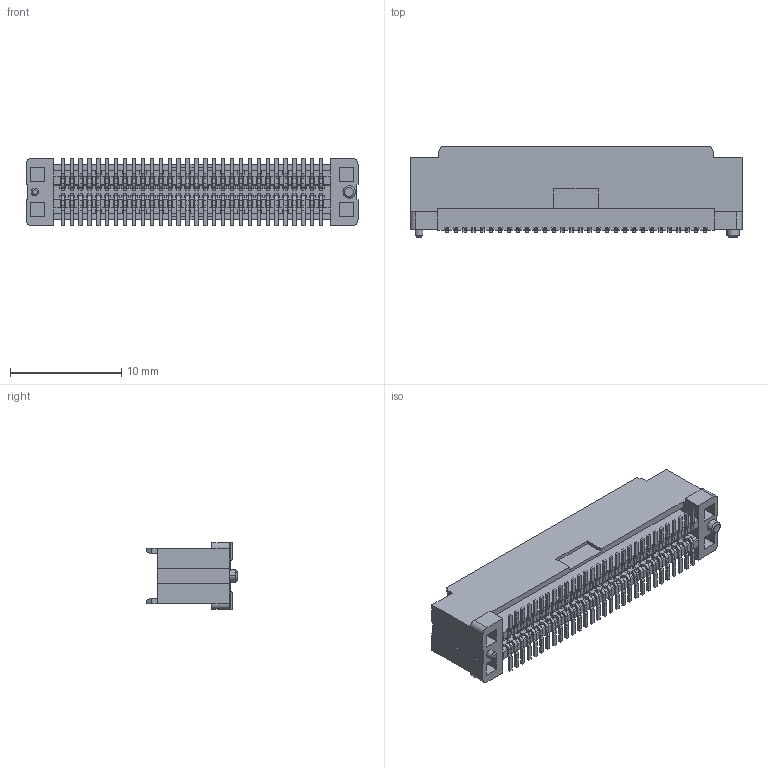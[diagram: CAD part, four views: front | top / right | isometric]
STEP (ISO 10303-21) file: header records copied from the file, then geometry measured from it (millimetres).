
FILE_DESCRIPTION (( 'STEP AP203' ), '1' );
FILE_NAME ('GT-B0805MSV77-60S0101.STEP', '2025-02-17T10:35:36', ( '' ), ( '' ), 'SwSTEP 2.0', 'SolidWorks 2020', '' );
FILE_SCHEMA (( 'CONFIG_CONTROL_DESIGN' ));
Products named in the file (1): GT-B0805MSV77-60S0101
Bounding box: 29.8 x 8.15 x 6.05 mm (x, y, z)
Volume: 550.8 mm3; surface area: 2274.5 mm2
Topology: 1 solids, 1 shells, 5396 faces, 15448 edges, 10075 vertices
Faces by surface type: plane 3725, cylinder 1336, bspline 311, cone 24
Entity records: 184421 total; most frequent: CARTESIAN_POINT 41945, ORIENTED_EDGE 30882, DIRECTION 28648, EDGE_CURVE 15441, VECTOR 11882, LINE 11882, VERTEX_POINT 10076, AXIS2_PLACEMENT_3D 8383
